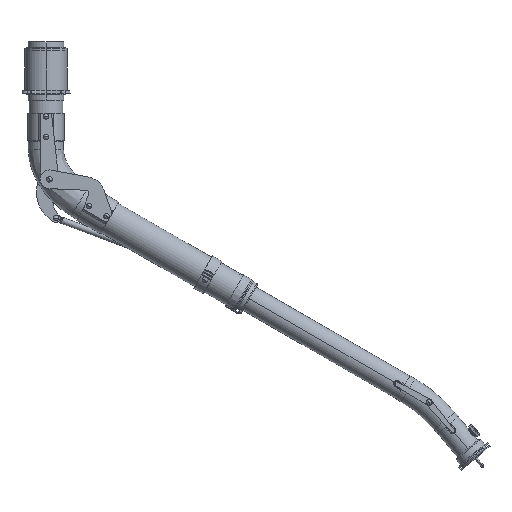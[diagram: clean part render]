
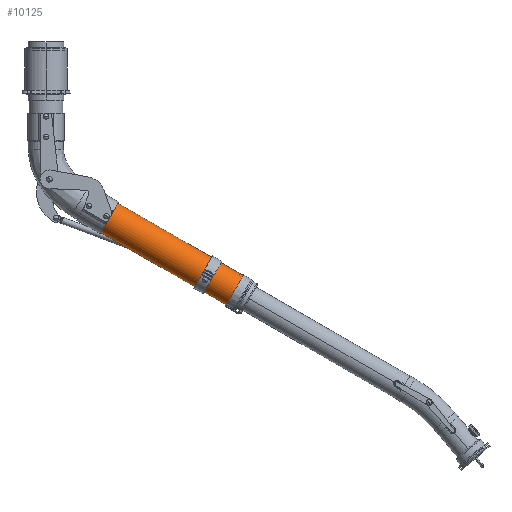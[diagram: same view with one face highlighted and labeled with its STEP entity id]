
A CAD part, top view. The second image highlights one B-rep face of the part: STEP entity #10125.
In plain terms, the highlighted cylindrical face has radius 50 mm (diameter 100 mm), a partial arc.
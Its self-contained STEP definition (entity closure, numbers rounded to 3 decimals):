
#9932=CARTESIAN_POINT('',(-484.75,50.,0.));
#9933=CARTESIAN_POINT('',(-484.75,50.,0.627));
#9934=CARTESIAN_POINT('',(-484.953,49.978,1.806));
#9935=CARTESIAN_POINT('',(-485.936,49.884,3.505));
#9936=CARTESIAN_POINT('',(-487.385,49.784,4.67));
#9937=CARTESIAN_POINT('',(-489.091,49.721,5.276));
#9938=CARTESIAN_POINT('',(-490.935,49.721,5.274));
#9939=CARTESIAN_POINT('',(-492.655,49.786,4.648));
#9940=CARTESIAN_POINT('',(-494.08,49.886,3.482));
#9941=CARTESIAN_POINT('',(-495.045,49.978,1.806));
#9942=CARTESIAN_POINT('',(-495.25,50.,0.628));
#9943=CARTESIAN_POINT('',(-495.25,50.,0.));
#9948=CARTESIAN_POINT('',(0.,0.,0.));
#9949=DIRECTION('',(1.,0.,0.));
#9950=DIRECTION('',(0.,1.,0.));
#9951=AXIS2_PLACEMENT_3D('',#9948,#9949,#9950);
#9956=CARTESIAN_POINT('',(-495.25,-50.,0.));
#9957=CARTESIAN_POINT('',(-495.25,-50.,0.555));
#9958=CARTESIAN_POINT('',(-495.087,-49.982,
1.616));
#9959=CARTESIAN_POINT('',(-494.306,-49.906,
3.164));
#9960=CARTESIAN_POINT('',(-493.108,-49.815,
4.335));
#9961=CARTESIAN_POINT('',(-491.652,-49.743,
5.072));
#9962=CARTESIAN_POINT('',(-490.013,-49.714,
5.337));
#9963=CARTESIAN_POINT('',(-488.382,-49.742,
5.081));
#9964=CARTESIAN_POINT('',(-486.932,-49.812,
4.364));
#9965=CARTESIAN_POINT('',(-485.704,-49.905,
3.183));
#9966=CARTESIAN_POINT('',(-484.913,-49.982,
1.619));
#9967=CARTESIAN_POINT('',(-484.75,-50.,0.556));
#9968=CARTESIAN_POINT('',(-484.75,-50.,0.));
#10003=DIRECTION('',(-1.,0.,0.));
#10004=VECTOR('',#10003,484.75);
#10005=CARTESIAN_POINT('',(0.,-50.,0.));
#10006=LINE('',#10005,#10004);
#10018=DIRECTION('',(-1.,0.,0.));
#10019=VECTOR('',#10018,484.75);
#10020=CARTESIAN_POINT('',(0.,50.,0.));
#10021=LINE('',#10020,#10019);
#10042=DIRECTION('',(-1.,0.,0.));
#10043=VECTOR('',#10042,54.75);
#10044=CARTESIAN_POINT('',(-495.25,50.,0.));
#10045=LINE('',#10044,#10043);
#10049=DIRECTION('',(-1.,0.,0.));
#10050=VECTOR('',#10049,54.75);
#10051=CARTESIAN_POINT('',(-495.25,-50.,0.));
#10052=LINE('',#10051,#10050);
#10064=CARTESIAN_POINT('',(-550.,0.,0.));
#10065=DIRECTION('',(1.,0.,0.));
#10066=DIRECTION('',(0.,1.,0.));
#10067=AXIS2_PLACEMENT_3D('',#10064,#10065,#10066);
#10072=CARTESIAN_POINT('',(0.,50.,0.));
#10073=CARTESIAN_POINT('',(0.,-50.,0.));
#10074=VERTEX_POINT('',#10072);
#10075=VERTEX_POINT('',#10073);
#10076=CARTESIAN_POINT('',(-550.,50.,0.));
#10077=CARTESIAN_POINT('',(-550.,-50.,0.));
#10078=VERTEX_POINT('',#10076);
#10079=VERTEX_POINT('',#10077);
#10080=VERTEX_POINT('',#9932);
#10081=VERTEX_POINT('',#9943);
#10082=VERTEX_POINT('',#9956);
#10083=VERTEX_POINT('',#9968);
#10103=CARTESIAN_POINT('',(-577.5,0.,0.));
#10104=DIRECTION('',(1.,0.,0.));
#10105=DIRECTION('',(0.,-1.,0.));
#10106=AXIS2_PLACEMENT_3D('',#10103,#10104,#10105);
#10107=CYLINDRICAL_SURFACE('',#10106,50.);
#10109=ORIENTED_EDGE('',*,*,#10108,.F.);
#10111=ORIENTED_EDGE('',*,*,#10110,.F.);
#10112=ORIENTED_EDGE('',*,*,#10089,.T.);
#10114=ORIENTED_EDGE('',*,*,#10113,.T.);
#10116=ORIENTED_EDGE('',*,*,#10115,.F.);
#10118=ORIENTED_EDGE('',*,*,#10117,.T.);
#10120=ORIENTED_EDGE('',*,*,#10119,.F.);
#10122=ORIENTED_EDGE('',*,*,#10121,.F.);
#10123=EDGE_LOOP('',(#10109,#10111,#10112,#10114,#10116,#10118,#10120,#10122));
#10124=FACE_OUTER_BOUND('',#10123,.F.);
#9944=B_SPLINE_CURVE_WITH_KNOTS('',3,(#9932,#9933,#9934,#9935,#9936,#9937,#9938,
#9939,#9940,#9941,#9942,#9943),.UNSPECIFIED.,.F.,.F.,(4,1,1,1,1,1,1,1,1,4),
(0.,0.111,0.222,0.333,0.444,
0.556,0.667,0.778,0.889,1.),
.UNSPECIFIED.);
#9952=CIRCLE('',#9951,50.);
#9969=B_SPLINE_CURVE_WITH_KNOTS('',3,(#9956,#9957,#9958,#9959,#9960,#9961,#9962,
#9963,#9964,#9965,#9966,#9967,#9968),.UNSPECIFIED.,.F.,.F.,(4,1,1,1,1,1,1,1,1,1,
4),(0.,0.1,0.2,0.3,0.4,0.5,0.6,0.7,0.8,0.9,1.),
.UNSPECIFIED.);
#10068=CIRCLE('',#10067,50.);
#10089=EDGE_CURVE('',#10074,#10075,#9952,.T.);
#10108=EDGE_CURVE('',#10080,#10081,#9944,.T.);
#10110=EDGE_CURVE('',#10074,#10080,#10021,.T.);
#10113=EDGE_CURVE('',#10075,#10083,#10006,.T.);
#10115=EDGE_CURVE('',#10082,#10083,#9969,.T.);
#10117=EDGE_CURVE('',#10082,#10079,#10052,.T.);
#10119=EDGE_CURVE('',#10078,#10079,#10068,.T.);
#10121=EDGE_CURVE('',#10081,#10078,#10045,.T.);
#10125=ADVANCED_FACE('',(#10124),#10107,.T.);
